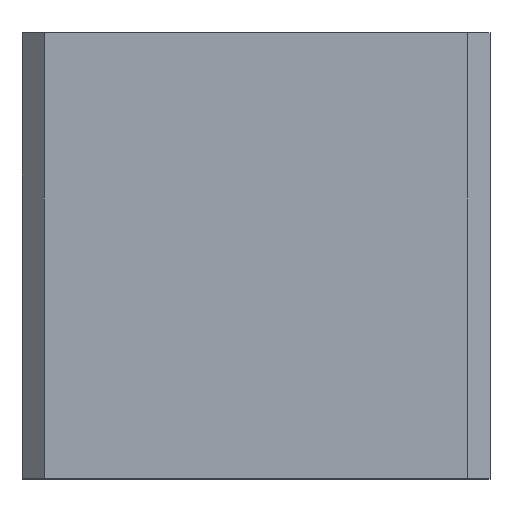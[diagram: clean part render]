
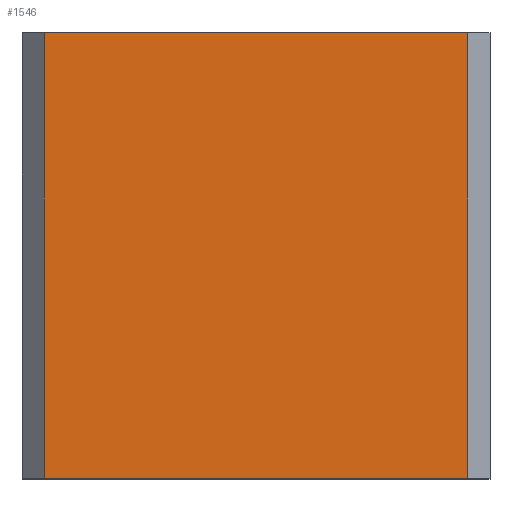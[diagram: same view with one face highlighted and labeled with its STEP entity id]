
A CAD part, top view. The second image highlights one B-rep face of the part: STEP entity #1546.
In plain terms, the highlighted planar face has unit normal (0, 0, 1).
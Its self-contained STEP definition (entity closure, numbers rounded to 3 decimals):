
#17 = ORIENTED_EDGE ( 'NONE', *, *, #666, .T. ) ;
#95 = DIRECTION ( 'NONE',  ( -1., 0., 0. ) ) ;
#141 = DIRECTION ( 'NONE',  ( 1., 0., 0. ) ) ;
#209 = EDGE_CURVE ( 'NONE', #683, #1212, #703, .T. ) ;
#244 = EDGE_LOOP ( 'NONE', ( #17, #495, #750, #1195 ) ) ;
#289 = VECTOR ( 'NONE', #1272, 1000. ) ;
#296 = LINE ( 'NONE', #754, #567 ) ;
#317 = DIRECTION ( 'NONE',  ( 0., 1., 0. ) ) ;
#495 = ORIENTED_EDGE ( 'NONE', *, *, #1169, .T. ) ;
#501 = VECTOR ( 'NONE', #1254, 1000. ) ;
#567 = VECTOR ( 'NONE', #317, 1000. ) ;
#666 = EDGE_CURVE ( 'NONE', #1212, #1622, #839, .T. ) ;
#676 = CARTESIAN_POINT ( 'NONE',  ( -19., 40., 21. ) ) ;
#683 = VERTEX_POINT ( 'NONE', #1859 ) ;
#703 = LINE ( 'NONE', #676, #289 ) ;
#750 = ORIENTED_EDGE ( 'NONE', *, *, #1135, .F. ) ;
#754 = CARTESIAN_POINT ( 'NONE',  ( 19., 40., 21. ) ) ;
#759 = CARTESIAN_POINT ( 'NONE',  ( -19., 0., 21. ) ) ;
#839 = LINE ( 'NONE', #1264, #501 ) ;
#1009 = CARTESIAN_POINT ( 'NONE',  ( -21., 40., 21. ) ) ;
#1047 = VECTOR ( 'NONE', #141, 1000. ) ;
#1135 = EDGE_CURVE ( 'NONE', #683, #1808, #1249, .T. ) ;
#1169 = EDGE_CURVE ( 'NONE', #1622, #1808, #296, .T. ) ;
#1180 = FACE_OUTER_BOUND ( 'NONE', #244, .T. ) ;
#1195 = ORIENTED_EDGE ( 'NONE', *, *, #209, .T. ) ;
#1203 = CARTESIAN_POINT ( 'NONE',  ( -21., 40., 21. ) ) ;
#1212 = VERTEX_POINT ( 'NONE', #759 ) ;
#1249 = LINE ( 'NONE', #1203, #1047 ) ;
#1254 = DIRECTION ( 'NONE',  ( 1., 0., 0. ) ) ;
#1264 = CARTESIAN_POINT ( 'NONE',  ( -21., 0., 21. ) ) ;
#1272 = DIRECTION ( 'NONE',  ( 0., -1., 0. ) ) ;
#1546 = ADVANCED_FACE ( 'NONE', ( #1180 ), #1628, .F. ) ;
#1609 = DIRECTION ( 'NONE',  ( 0., 0., -1. ) ) ;
#1622 = VERTEX_POINT ( 'NONE', #1786 ) ;
#1628 = PLANE ( 'NONE',  #1839 ) ;
#1783 = CARTESIAN_POINT ( 'NONE',  ( 19., 40., 21. ) ) ;
#1786 = CARTESIAN_POINT ( 'NONE',  ( 19., 0., 21. ) ) ;
#1808 = VERTEX_POINT ( 'NONE', #1783 ) ;
#1839 = AXIS2_PLACEMENT_3D ( 'NONE', #1009, #1609, #95 ) ;
#1859 = CARTESIAN_POINT ( 'NONE',  ( -19., 40., 21. ) ) ;
